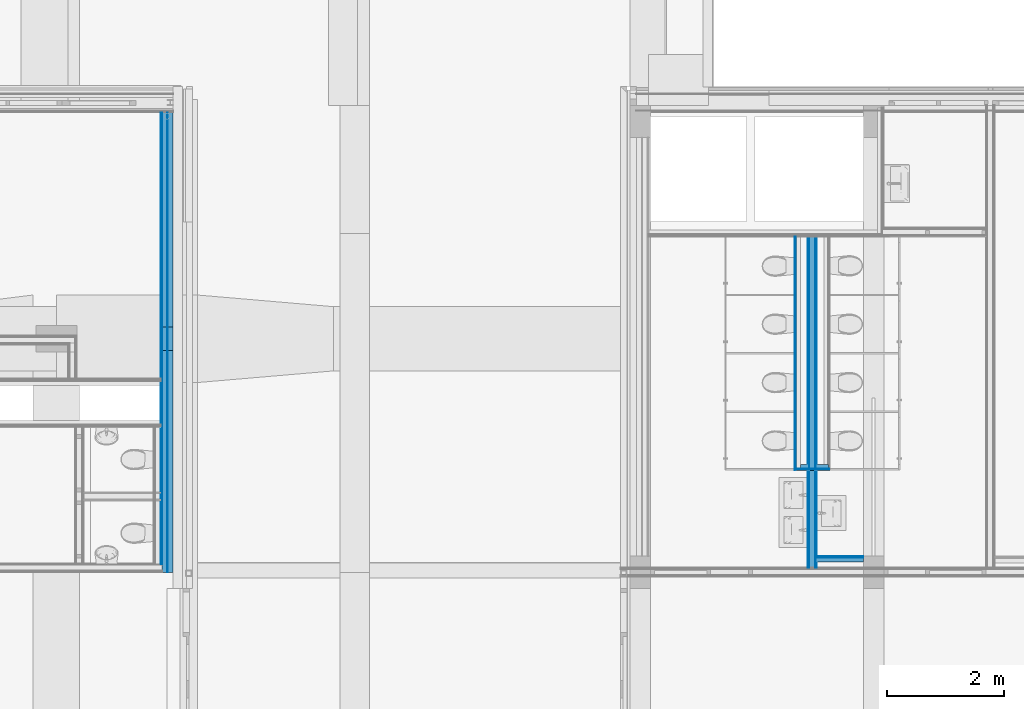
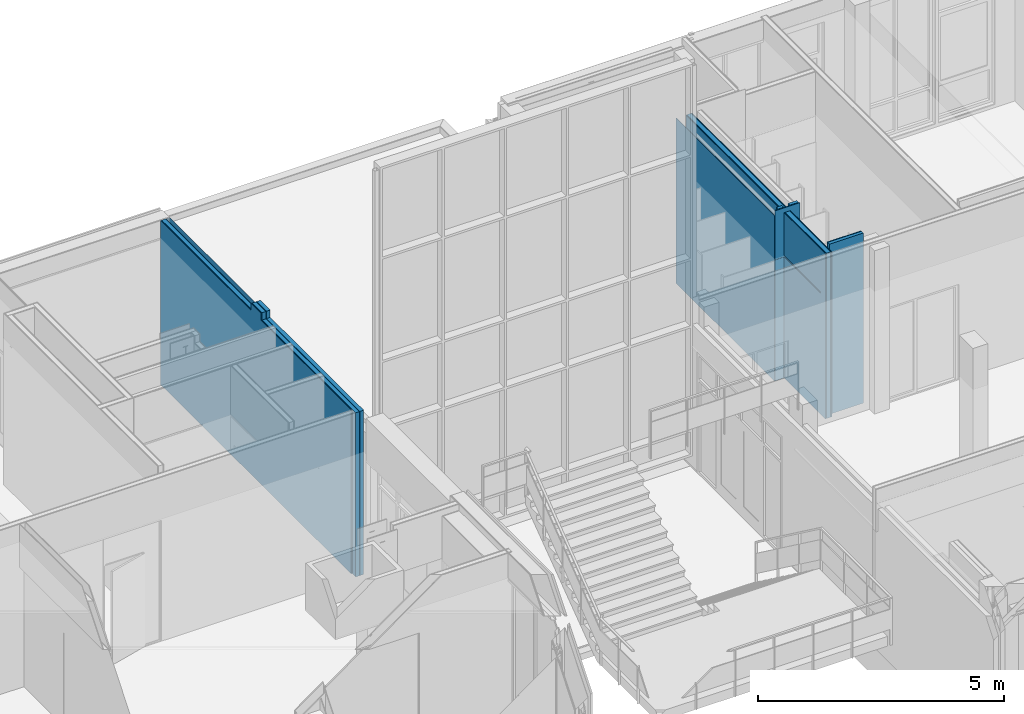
# One storey, part 50 of 94: 17 building element parts, 5 elements without a shape of their own.
"""IFC2X3 building model written with IfcOpenShell, lengths in millimetres."""

from ifc_helpers import new_model, entity, si_unit, converted_unit, derived_unit, money_unit, direction, frame, origin_with_axes, place, context, subcontext, project, spatial, faceted_brep, material, type_object, element, aggregate, save


model = new_model("IFC2X3")

# Units and contexts
model_context = context("Model", 3, precision=0.01, world=origin_with_axes(), true_north=direction((0.0, 1.0)))
body_context = subcontext(model_context, "Body", "Model", "MODEL_VIEW")
ifc_project = project(units=[si_unit("LENGTHUNIT", "METRE", prefix="MILLI"), si_unit("AREAUNIT", "SQUARE_METRE"), si_unit("VOLUMEUNIT", "CUBIC_METRE"), converted_unit("PLANEANGLEUNIT", "DEGREE", entity("IfcPlaneAngleMeasure", 0.0174532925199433), si_unit("PLANEANGLEUNIT", "RADIAN"), dimensions=[0, 0, 0, 0, 0, 0, 0]), money_unit("EUR"), converted_unit("TIMEUNIT", "Year", entity("IfcTimeMeasure", 31557600.0), si_unit("TIMEUNIT", "SECOND"), dimensions=[0, 0, 1, 0, 0, 0, 0]), si_unit("MASSUNIT", "GRAM", prefix="KILO"), si_unit("THERMODYNAMICTEMPERATUREUNIT", "DEGREE_CELSIUS"), si_unit("LUMINOUSINTENSITYUNIT", "LUMEN"), si_unit("ENERGYUNIT", "JOULE", prefix="MEGA"), derived_unit("THERMALCONDUCTANCEUNIT", [(si_unit("POWERUNIT", "WATT"), 1), (si_unit("LENGTHUNIT", "METRE"), -1), (si_unit("THERMODYNAMICTEMPERATUREUNIT", "KELVIN"), -1)]), derived_unit("SPECIFICHEATCAPACITYUNIT", [(si_unit("ENERGYUNIT", "JOULE"), 1), (si_unit("MASSUNIT", "GRAM", prefix="KILO"), -1), (si_unit("THERMODYNAMICTEMPERATUREUNIT", "KELVIN"), -1)]), derived_unit("MASSDENSITYUNIT", [(si_unit("MASSUNIT", "GRAM", prefix="KILO"), 1), (si_unit("VOLUMEUNIT", "CUBIC_METRE"), -1)])], contexts=[model_context])

# Site, building, storey
site_placement = place(None, origin_with_axes())
site = spatial("IfcSite", under=ifc_project, at=site_placement, Name="<site naam>", CompositionType="ELEMENT")
building_placement = place(site_placement, origin_with_axes())
building = spatial("IfcBuilding", under=site, at=building_placement, Name="<Naam gebouw>", CompositionType="ELEMENT")
storey_placement = place(building_placement, frame((0.0, 0.0, 4250.0), z_axis=(0.0, 0.0, 1.0), x_axis=(1.0, 0.0, 0.0)))
storey = spatial("IfcBuildingStorey", under=building, at=storey_placement, Name="01 1e verdieping", CompositionType="ELEMENT", Elevation=4250.0)

# Wall, building element parts
wall_type_1 = type_object("IfcWallType", Name="MS-01 GF 150 ECO DGS/2.100.2.A 150", PredefinedType="NOTDEFINED")
wall_1_placement = place(storey_placement, frame((14950.00000000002, 17750.0, 0.0), z_axis=(0.0, 0.0, 1.0), x_axis=(0.0, -1.0, 0.0)))
wall_1 = element("IfcWall", 1, at=wall_1_placement, inside=storey, type_object=wall_type_1, Name="22_Binnenwand_MS-01")
ifc_material_1 = material(Name="gipsplaat")
building_element_part_1_placement = place(wall_1_placement, origin_with_axes())
building_element_part_1 = element("IfcBuildingElementPart", 2, at=building_element_part_1_placement, material=ifc_material_1, Name="gipsplaat", context=body_context, shape_type="Brep", body=[
    faceted_brep([(0.0, 50.00000000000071, 4100.0), (0.0, 62.5, 4100.0), (0.0, 62.5, 0.0), (0.0, 50.00000000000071, 0.0), (3975.101338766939, 62.5, 4100.0), (3975.106603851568, 49.99999999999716, 4100.0), (3975.101338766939, 62.5, 0.0), (3975.106603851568, 49.99999999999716, 0.0)], [[[0, 1, 2, 3]], [[4, 1, 0, 5]], [[1, 4, 6, 2]], [[2, 6, 7, 3]], [[5, 0, 3, 7]], [[4, 5, 7, 6]]]),
    faceted_brep([(4000.106606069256, 49.99999999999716, 4100.0), (4000.101340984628, 62.5, 4100.0), (4000.101340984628, 62.5, 3040.0), (4000.106606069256, 49.99999999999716, 3040.0), (5674.999999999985, 62.5, 4100.0), (5674.999999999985, 49.99999999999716, 4100.0), (5674.999999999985, 62.5, 0.0), (4000.101340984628, 62.5, 0.0), (4000.101340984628, 62.5, 3000.0), (5474.999980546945, 62.5, 3000.0), (5474.999980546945, 62.5, 3040.0), (5474.999980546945, 49.99999999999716, 3040.0), (5474.999980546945, 49.99999999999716, 3000.0), (4000.106606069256, 49.99999999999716, 3000.0), (4000.106606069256, 49.99999999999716, 0.0), (5674.999999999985, 49.99999999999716, 0.0)], [[[0, 1, 2, 3]], [[4, 1, 0, 5]], [[1, 4, 6, 7, 8, 9, 10, 2]], [[11, 3, 2, 10]], [[5, 0, 3, 11, 12, 13, 14, 15]], [[4, 5, 15, 6]], [[7, 6, 15, 14]], [[14, 13, 8, 7]], [[12, 9, 8, 13]], [[11, 10, 9, 12]]]),
])
building_element_part_2_placement = place(wall_1_placement, origin_with_axes())
building_element_part_2 = element("IfcBuildingElementPart", 3, at=building_element_part_2_placement, material=ifc_material_1, Name="gipsplaat", context=body_context, shape_type="Brep", body=[
    faceted_brep([(0.0, 62.5, 4100.0), (0.0, 75.00000000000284, 4100.0), (0.0, 74.99999999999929, 0.0), (0.0, 62.5, 0.0), (3975.096073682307, 74.99999999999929, 4100.0), (3975.101338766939, 62.5, 4100.0), (3975.096073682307, 74.99999999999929, 0.0), (3975.101338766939, 62.5, 0.0)], [[[0, 1, 2, 3]], [[4, 1, 0, 5]], [[1, 4, 6, 2]], [[2, 6, 7, 3]], [[5, 0, 3, 7]], [[4, 5, 7, 6]]]),
    faceted_brep([(4000.101340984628, 62.5, 4100.0), (4000.096075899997, 74.99999999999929, 4100.0), (4000.096075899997, 74.99999999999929, 3040.0), (4000.101340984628, 62.5, 3040.0), (5674.999999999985, 74.99999999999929, 4100.0), (5674.999999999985, 62.5, 4100.0), (5674.999999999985, 74.99999999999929, 0.0), (4000.096075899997, 74.99999999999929, 0.0), (4000.096075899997, 74.99999999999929, 3000.0), (5474.999980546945, 74.99999999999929, 3000.0), (5474.999980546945, 74.99999999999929, 3040.0), (5474.999980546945, 62.5, 3040.0), (5474.999980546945, 62.5, 3000.0), (4000.101340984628, 62.5, 3000.0), (4000.101340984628, 62.5, 0.0), (5674.999999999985, 62.5, 0.0)], [[[0, 1, 2, 3]], [[4, 1, 0, 5]], [[1, 4, 6, 7, 8, 9, 10, 2]], [[11, 3, 2, 10]], [[5, 0, 3, 11, 12, 13, 14, 15]], [[4, 5, 15, 6]], [[7, 6, 15, 14]], [[14, 13, 8, 7]], [[12, 9, 8, 13]], [[11, 10, 9, 12]]]),
])
ifc_material_2 = material(Name="isolatie_steenwol LSW")
building_element_part_3_placement = place(wall_1_placement, origin_with_axes())
building_element_part_3 = element("IfcBuildingElementPart", 4, at=building_element_part_3_placement, material=ifc_material_2, Name="isolatie_steenwol LSW", context=body_context, shape_type="Brep", body=[
    faceted_brep([(0.0, -49.99999999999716, 4100.0), (0.0, 50.00000000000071, 4100.0), (0.0, 50.00000000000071, 0.0), (0.0, -50.00000000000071, 0.0), (3975.106603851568, 49.99999999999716, 4100.0), (3975.148724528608, -50.00000000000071, 4100.0), (3975.106603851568, 49.99999999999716, 0.0), (3975.148724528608, -50.00000000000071, 0.0)], [[[0, 1, 2, 3]], [[4, 1, 0, 5]], [[1, 4, 6, 2]], [[2, 6, 7, 3]], [[5, 0, 3, 7]], [[4, 5, 7, 6]]]),
    faceted_brep([(4000.148726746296, -50.00000000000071, 4100.0), (4000.106606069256, 49.99999999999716, 4100.0), (4000.106606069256, 49.99999999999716, 3040.0), (4000.148726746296, -50.00000000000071, 3040.0), (5674.999999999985, 49.99999999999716, 4100.0), (5674.999999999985, -50.00000000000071, 4100.0), (5674.999999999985, 49.99999999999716, 0.0), (4000.106606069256, 49.99999999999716, 0.0), (4000.106606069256, 49.99999999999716, 3000.0), (5474.999980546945, 49.99999999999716, 3000.0), (5474.999980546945, 49.99999999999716, 3040.0), (5474.999980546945, -50.00000000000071, 3040.0), (5474.999980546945, -50.00000000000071, 3000.0), (4000.148726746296, -50.00000000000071, 3000.0), (4000.148726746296, -50.00000000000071, 0.0), (5674.999999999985, -50.00000000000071, 0.0)], [[[0, 1, 2, 3]], [[4, 1, 0, 5]], [[1, 4, 6, 7, 8, 9, 10, 2]], [[11, 3, 2, 10]], [[5, 0, 3, 11, 12, 13, 14, 15]], [[4, 5, 15, 6]], [[7, 6, 15, 14]], [[14, 13, 8, 7]], [[12, 9, 8, 13]], [[11, 10, 9, 12]]]),
])
building_element_part_4_placement = place(wall_1_placement, origin_with_axes())
building_element_part_4 = element("IfcBuildingElementPart", 5, at=building_element_part_4_placement, material=ifc_material_1, Name="gipsplaat", context=body_context, shape_type="Brep", body=[
    faceted_brep([(0.0, -62.5, 4100.0), (0.0, -49.99999999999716, 4100.0), (0.0, -50.00000000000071, 0.0), (0.0, -62.5, 0.0), (3975.148724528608, -50.00000000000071, 4100.0), (3975.153989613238, -62.5, 4100.0), (3975.148724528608, -50.00000000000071, 0.0), (3975.153989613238, -62.5, 0.0)], [[[0, 1, 2, 3]], [[4, 1, 0, 5]], [[1, 4, 6, 2]], [[2, 6, 7, 3]], [[5, 0, 3, 7]], [[4, 5, 7, 6]]]),
    faceted_brep([(4000.153991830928, -62.5, 4100.0), (4000.148726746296, -50.00000000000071, 4100.0), (4000.148726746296, -50.00000000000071, 3040.0), (4000.153991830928, -62.5, 3040.0), (5674.999999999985, -50.00000000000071, 4100.0), (5674.999999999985, -62.5, 4100.0), (5674.999999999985, -50.00000000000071, 0.0), (4000.148726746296, -50.00000000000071, 0.0), (4000.148726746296, -50.00000000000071, 3000.0), (5474.999980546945, -50.00000000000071, 3000.0), (5474.999980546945, -50.00000000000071, 3040.0), (5474.999980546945, -62.5, 3040.0), (5474.999980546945, -62.5, 3000.0), (4000.153991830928, -62.5, 3000.0), (4000.153991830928, -62.5, 0.0), (5674.999999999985, -62.5, 0.0)], [[[0, 1, 2, 3]], [[4, 1, 0, 5]], [[1, 4, 6, 7, 8, 9, 10, 2]], [[11, 3, 2, 10]], [[5, 0, 3, 11, 12, 13, 14, 15]], [[4, 5, 15, 6]], [[7, 6, 15, 14]], [[14, 13, 8, 7]], [[12, 9, 8, 13]], [[11, 10, 9, 12]]]),
])
building_element_part_5_placement = place(wall_1_placement, origin_with_axes())
building_element_part_5 = element("IfcBuildingElementPart", 6, at=building_element_part_5_placement, material=ifc_material_1, Name="gipsplaat", context=body_context, shape_type="Brep", body=[
    faceted_brep([(0.0, -74.99999999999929, 4100.0), (0.0, -62.5, 4100.0), (0.0, -62.5, 0.0), (0.0, -74.99999999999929, 0.0), (3975.153989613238, -62.5, 4100.0), (3975.159254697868, -75.00000000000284, 4100.0), (3975.153989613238, -62.5, 0.0), (3975.159254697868, -75.00000000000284, 0.0)], [[[0, 1, 2, 3]], [[4, 1, 0, 5]], [[1, 4, 6, 2]], [[2, 6, 7, 3]], [[5, 0, 3, 7]], [[4, 5, 7, 6]]]),
    faceted_brep([(4000.159256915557, -75.00000000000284, 4100.0), (4000.153991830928, -62.5, 4100.0), (4000.153991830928, -62.5, 3040.0), (4000.159256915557, -75.00000000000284, 3040.0), (5674.999999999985, -62.5, 4100.0), (5674.999999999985, -75.00000000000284, 4100.0), (5674.999999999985, -62.5, 0.0), (4000.153991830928, -62.5, 0.0), (4000.153991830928, -62.5, 3000.0), (5474.999980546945, -62.5, 3000.0), (5474.999980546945, -62.5, 3040.0), (5474.999980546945, -75.00002204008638, 3040.0), (5474.999980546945, -75.00002204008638, 3000.0), (4000.159256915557, -75.00000000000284, 3000.0), (4000.159256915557, -75.00000000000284, 0.0), (5674.999999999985, -75.00000000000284, 0.0)], [[[0, 1, 2, 3]], [[4, 1, 0, 5]], [[1, 4, 6, 7, 8, 9, 10, 2]], [[11, 3, 2, 10]], [[5, 0, 3, 11, 12, 13, 14, 15]], [[4, 5, 15, 6]], [[7, 6, 15, 14]], [[14, 13, 8, 7]], [[12, 9, 8, 13]], [[11, 10, 9, 12]]]),
])
aggregate(wall_1, [building_element_part_1, building_element_part_2, building_element_part_3, building_element_part_4, building_element_part_5])

# Wall, building element part
wall_type_2 = type_object("IfcWallType", Name="MS-03 GF 100 HTT DGS V/100.2 100", PredefinedType="NOTDEFINED")
wall_2_placement = place(storey_placement, frame((14750.00000000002, 17750.0, 0.0), z_axis=(0.0, 0.0, 1.0), x_axis=(0.0, -1.0, 0.0)))
wall_2 = element("IfcWall", 7, at=wall_2_placement, inside=storey, type_object=wall_type_2, Name="22_Binnenwand_MS-03")
building_element_part_6_placement = place(wall_2_placement, origin_with_axes())
building_element_part_6 = element("IfcBuildingElementPart", 8, at=building_element_part_6_placement, material=ifc_material_1, Name="gipsplaat", context=body_context, shape_type="Brep", body=[
    faceted_brep([(0.0, -99.99999999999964, 4100.0), (0.0, -87.50000000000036, 4100.0), (0.0, -87.50000000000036, 0.0), (0.0, -99.99999999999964, 0.0), (4000.24876335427, -87.50000000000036, 4100.0), (4000.254028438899, -99.99999999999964, 4100.0), (4000.24876335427, -87.50000000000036, 3040.0), (3994.602597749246, -87.50000000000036, 3040.0), (3994.602597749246, -87.50000000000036, 3000.0), (4000.24876335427, -87.50000000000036, 3000.0), (4000.24876335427, -87.50000000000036, 22.99999999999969), (4000.143490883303, -87.50000000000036, 22.99999999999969), (4000.143490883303, -87.50000000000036, 19.99999999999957), (4000.24876335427, -87.50000000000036, 19.99999999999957), (4000.24876335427, -87.50000000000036, 0.0), (4000.254028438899, -99.99999999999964, 0.0), (4000.254028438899, -99.99999999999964, 19.99999999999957), (4000.143490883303, -100.0000404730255, 19.99999999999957), (4000.143490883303, -100.0000404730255, 22.99999999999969), (4000.254028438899, -99.99999999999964, 22.99999999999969), (4000.254028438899, -99.99999999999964, 3000.0), (3994.602597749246, -100.0000546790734, 3000.0), (3994.602597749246, -100.0000546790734, 3040.0), (4000.254028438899, -99.99999999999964, 3040.0)], [[[0, 1, 2, 3]], [[4, 1, 0, 5]], [[1, 4, 6, 7, 8, 9, 10, 11, 12, 13, 14, 2]], [[2, 14, 15, 3]], [[5, 0, 3, 15, 16, 17, 18, 19, 20, 21, 22, 23]], [[4, 5, 23, 6]], [[22, 7, 6, 23]], [[21, 8, 7, 22]], [[20, 9, 8, 21]], [[20, 19, 10, 9]], [[18, 11, 10, 19]], [[17, 12, 11, 18]], [[16, 13, 12, 17]], [[14, 13, 16, 15]]]),
])
aggregate(wall_2, [building_element_part_6])

# Wall, building element parts
wall_3_placement = place(storey_placement, frame((14750.00000000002, 13749.78809223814, 0.0), z_axis=(0.0, 0.0, 1.0), x_axis=(0.9999999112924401, 0.0004212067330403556, 0.0)))
wall_3 = element("IfcWall", 9, at=wall_3_placement, inside=storey, type_object=wall_type_2, Name="22_Binnenwand_MS-03")
building_element_part_7_placement = place(wall_3_placement, origin_with_axes())
building_element_part_7 = element("IfcBuildingElementPart", 10, at=building_element_part_7_placement, material=ifc_material_2, Name="isolatie_steenwol LSW", context=body_context, shape_type="Brep", body=[
    faceted_brep([(275.0421450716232, 100.0000000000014, 4220.000000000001), (475.0421628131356, 100.0000000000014, 4220.000000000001), (475.0421628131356, 100.0000000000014, 0.0), (275.0421450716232, 100.0000000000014, 0.0), (475.0105723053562, 25.00000000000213, 4220.000000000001), (275.0105545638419, 25.00000000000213, 4220.000000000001), (475.0105723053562, 25.00000000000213, 0.0), (275.0105545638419, 25.00000000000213, 0.0)], [[[0, 1, 2, 3]], [[4, 1, 0, 5]], [[1, 4, 6, 2]], [[2, 6, 7, 3]], [[5, 0, 3, 7]], [[4, 5, 7, 6]]]),
    faceted_brep([(0.04212067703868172, 99.99999999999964, 4220.000000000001), (125.042131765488, 100.0000000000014, 4220.000000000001), (125.042131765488, 100.0000000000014, 0.0), (0.04212067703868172, 99.99999999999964, 0.0), (125.0105412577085, 25.00000000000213, 4220.000000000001), (0.01053016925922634, 25.00000000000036, 4220.000000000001), (125.0105412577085, 25.00000000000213, 0.0), (0.01053016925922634, 25.00000000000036, 0.0)], [[[0, 1, 2, 3]], [[4, 1, 0, 5]], [[1, 4, 6, 2]], [[2, 6, 7, 3]], [[5, 0, 3, 7]], [[4, 5, 7, 6]]]),
])
building_element_part_8_placement = place(wall_3_placement, origin_with_axes())
building_element_part_8 = element("IfcBuildingElementPart", 11, at=building_element_part_8_placement, material=ifc_material_1, Name="gipsplaat", context=body_context, shape_type="Brep", body=[
    faceted_brep([(-74.98947648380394, 25.00000000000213, 4220.000000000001), (487.5105734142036, 25.00000000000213, 4220.000000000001), (487.5105734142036, 25.00000000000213, 0.0), (-74.98947648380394, 25.00000000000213, 0.0), (487.5053083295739, 12.50000000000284, 4220.000000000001), (-74.99474156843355, 12.50000000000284, 4220.000000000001), (487.5053083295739, 12.50000000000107, 0.0), (-74.99474156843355, 12.50000000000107, 0.0)], [[[0, 1, 2, 3]], [[4, 1, 0, 5]], [[1, 4, 6, 2]], [[2, 6, 7, 3]], [[5, 0, 3, 7]], [[4, 5, 7, 6]]]),
])
building_element_part_9_placement = place(wall_3_placement, origin_with_axes())
building_element_part_9 = element("IfcBuildingElementPart", 12, at=building_element_part_9_placement, material=ifc_material_1, Name="gipsplaat", context=body_context, shape_type="Brep", body=[
    faceted_brep([(-87.49474267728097, 12.50000000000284, 4220.000000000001), (500.0053094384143, 12.50000000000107, 4220.000000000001), (500.0053094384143, 12.49999999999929, 0.0), (-87.49474267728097, 12.50000000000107, 0.0), (500.0000443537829, 0.0, 4220.000000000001), (-87.50000776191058, 0.0, 4220.000000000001), (500.0000443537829, 0.0, 3040.0), (500.0022359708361, 5.398706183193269, 3040.0), (500.0022359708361, 5.398706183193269, 3000.0), (500.0000443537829, 0.0, 3000.0), (500.0000443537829, 0.0, 0.0), (-87.50000776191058, 0.0, 0.0), (-87.50000776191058, 0.0, 19.99999999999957), (-87.49996342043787, 0.1052724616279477, 19.99999999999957), (-87.49996342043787, 0.1052724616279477, 22.99999999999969), (-87.50000776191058, 0.0, 22.99999999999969), (-87.50000776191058, 0.0, 3000.0), (-87.49762955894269, 5.646165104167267, 3000.0), (-87.49762955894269, 5.646165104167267, 3040.0), (-87.50000776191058, 0.0, 3040.0), (125.0000110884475, 0.0, 19.99999999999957), (125.0000110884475, 0.0, 22.99999999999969), (125.0000177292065, 0.01576603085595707, 19.99999999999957), (125.0000177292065, 0.01576603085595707, 22.99999999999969)], [[[0, 1, 2, 3]], [[4, 1, 0, 5]], [[1, 4, 6, 7, 8, 9, 10, 2]], [[2, 10, 11, 3]], [[5, 0, 3, 11, 12, 13, 14, 15, 16, 17, 18, 19]], [[4, 5, 19, 6]], [[7, 6, 19, 18]], [[8, 7, 18, 17]], [[9, 8, 17, 16]], [[20, 12, 11, 10, 9, 16, 15, 21]], [[12, 20, 22, 13]], [[14, 13, 22, 23]], [[21, 15, 14, 23]], [[20, 21, 23, 22]]]),
])
aggregate(wall_3, [building_element_part_7, building_element_part_8, building_element_part_9])

wall_type_3 = type_object("IfcWallType", Name="therm. voorzetwand 215mm 215", PredefinedType="NOTDEFINED")
wall_4_placement = place(storey_placement, frame((4000.04446815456, 19883.99999999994, 0.0), z_axis=(0.0, 0.0, 1.0), x_axis=(0.0, -1.0, 0.0)))
wall_4 = element("IfcWall", 13, at=wall_4_placement, inside=storey, type_object=wall_type_3, Name="22_Binnenwand_therm.")
ifc_material_3 = material(Name="isolatie_steenwol")
building_element_part_10_placement = place(wall_4_placement, origin_with_axes())
building_element_part_10 = element("IfcBuildingElementPart", 14, at=building_element_part_10_placement, material=ifc_material_3, Name="isolatie_steenwol", context=body_context, shape_type="Brep", body=[
    faceted_brep([(0.0, -89.99999999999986, 4070.000000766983), (0.0, 0.0, 4070.000000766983), (0.0, 0.0, 0.0), (0.0, -89.99999999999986, 0.0), (7883.99999999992, 0.0, 4070.000000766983), (3683.999999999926, -89.99999999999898, 4070.000000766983), (3683.999999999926, -0.04446815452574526, 4070.000000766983), (4083.999999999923, -0.04446815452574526, 4070.000000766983), (4083.999999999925, -89.99999999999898, 4070.000000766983), (7883.999999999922, -89.99999999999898, 4070.000000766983), (7883.99999999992, 0.0, 0.0), (7883.999999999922, -89.99999999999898, 0.0), (4083.999999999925, -89.99999999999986, 4250.0), (3683.999999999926, -89.99999999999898, 4250.0), (3683.999999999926, -0.04446815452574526, 4250.0), (4083.999999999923, -0.04446815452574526, 4250.0)], [[[0, 1, 2, 3]], [[4, 1, 0, 5, 6, 7, 8, 9]], [[1, 4, 10, 2]], [[10, 11, 3, 2]], [[5, 0, 3, 11, 9, 8, 12, 13]], [[13, 14, 6, 5]], [[14, 15, 7, 6]], [[15, 12, 8, 7]], [[4, 9, 11, 10]], [[14, 13, 12, 15]]]),
])
ifc_material_4 = material(Name="metal_stud")
building_element_part_11_placement = place(wall_4_placement, origin_with_axes())
building_element_part_11 = element("IfcBuildingElementPart", 15, at=building_element_part_11_placement, material=ifc_material_4, Name="metal_stud", context=body_context, shape_type="Brep", body=[
    faceted_brep([(3683.999999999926, -89.99999999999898, 4250.0), (3683.999999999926, -99.99999999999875, 4250.0), (4083.999999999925, -99.99999999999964, 4250.0), (4083.999999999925, -89.99999999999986, 4250.0), (3683.999999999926, -89.99999999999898, 4070.000000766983), (3683.999999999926, -99.99999999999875, 4070.000000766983), (0.0, -99.99999999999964, 4070.000000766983), (0.0, -100.0000000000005, 0.0), (7883.999999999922, -99.99999999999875, 0.0), (7883.999999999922, -99.99999999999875, 4070.000000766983), (4083.999999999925, -99.99999999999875, 4070.000000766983), (4083.999999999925, -89.99999999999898, 4070.000000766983), (7883.999999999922, -89.99999999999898, 4070.000000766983), (7883.999999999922, -89.99999999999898, 0.0), (0.0, -89.99999999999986, 0.0), (0.0, -89.99999999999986, 4070.000000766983)], [[[0, 1, 2, 3]], [[1, 0, 4, 5]], [[5, 6, 7, 8, 9, 10, 2, 1]], [[11, 3, 2, 10]], [[4, 0, 3, 11, 12, 13, 14, 15]], [[4, 15, 6, 5]], [[6, 15, 14, 7]], [[13, 8, 7, 14]], [[12, 9, 8, 13]], [[12, 11, 10, 9]]]),
])
building_element_part_12_placement = place(wall_4_placement, origin_with_axes())
building_element_part_12 = element("IfcBuildingElementPart", 16, at=building_element_part_12_placement, material=ifc_material_1, Name="gipsplaat", context=body_context, shape_type="Brep", body=[
    faceted_brep([(3683.999999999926, -189.9999999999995, 4250.0), (3683.999999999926, -202.4999999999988, 4250.0), (4083.999999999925, -202.4999999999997, 4250.0), (4083.999999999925, -189.9999999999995, 4250.0), (3683.999999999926, -189.9999999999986, 4070.000000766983), (3683.999999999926, -202.4999999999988, 4070.000000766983), (0.0, -202.4999999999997, 4070.000000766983), (0.0, -202.4999999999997, 0.0), (7746.499999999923, -202.4999999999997, 0.0), (7746.499999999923, -202.4999999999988, 4070.000000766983), (4083.999999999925, -202.4999999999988, 4070.000000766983), (4083.999999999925, -189.9999999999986, 4070.000000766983), (7746.499999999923, -189.9999999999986, 4070.000000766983), (7746.499999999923, -189.9999999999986, 0.0), (0.0, -190.0000000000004, 0.0), (0.0, -190.0000000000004, 4070.000000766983)], [[[0, 1, 2, 3]], [[1, 0, 4, 5]], [[5, 6, 7, 8, 9, 10, 2, 1]], [[11, 3, 2, 10]], [[4, 0, 3, 11, 12, 13, 14, 15]], [[4, 15, 6, 5]], [[6, 15, 14, 7]], [[13, 8, 7, 14]], [[12, 9, 8, 13]], [[12, 11, 10, 9]]]),
])
building_element_part_13_placement = place(wall_4_placement, origin_with_axes())
building_element_part_13 = element("IfcBuildingElementPart", 17, at=building_element_part_13_placement, material=ifc_material_3, Name="isolatie_steenwol", context=body_context, shape_type="Brep", body=[
    faceted_brep([(3683.999999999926, -99.99999999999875, 4250.0), (3683.999999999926, -189.9999999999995, 4250.0), (4083.999999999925, -189.9999999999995, 4250.0), (4083.999999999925, -99.99999999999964, 4250.0), (3683.999999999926, -99.99999999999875, 4070.000000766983), (3683.999999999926, -189.9999999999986, 4070.000000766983), (0.0, -190.0000000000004, 4070.000000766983), (0.0, -190.0000000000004, 0.0), (7883.999999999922, -189.9999999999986, 0.0), (7883.999999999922, -189.9999999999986, 4070.000000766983), (4083.999999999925, -189.9999999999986, 4070.000000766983), (4083.999999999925, -99.99999999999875, 4070.000000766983), (7883.999999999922, -99.99999999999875, 4070.000000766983), (7883.999999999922, -99.99999999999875, 0.0), (0.0, -100.0000000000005, 0.0), (0.0, -99.99999999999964, 4070.000000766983)], [[[0, 1, 2, 3]], [[1, 0, 4, 5]], [[5, 6, 7, 8, 9, 10, 2, 1]], [[11, 3, 2, 10]], [[4, 0, 3, 11, 12, 13, 14, 15]], [[4, 15, 6, 5]], [[6, 15, 14, 7]], [[13, 8, 7, 14]], [[12, 9, 8, 13]], [[12, 11, 10, 9]]]),
])
building_element_part_14_placement = place(wall_4_placement, origin_with_axes())
building_element_part_14 = element("IfcBuildingElementPart", 18, at=building_element_part_14_placement, material=ifc_material_1, Name="gipsplaat", context=body_context, shape_type="Brep", body=[
    faceted_brep([(3683.999999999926, -202.4999999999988, 4250.0), (3683.999999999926, -214.999999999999, 4250.0), (4083.999999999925, -214.9999999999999, 4250.0), (4083.999999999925, -202.4999999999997, 4250.0), (3683.999999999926, -202.4999999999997, 4070.000000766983), (3683.999999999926, -214.999999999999, 4070.000000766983), (0.0, -214.9999999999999, 4070.000000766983), (0.0, -214.9999999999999, 0.0), (7733.999999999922, -214.999999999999, 0.0), (7733.999999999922, -214.999999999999, 4070.000000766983), (4083.999999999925, -214.999999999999, 4070.000000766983), (4083.999999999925, -202.4999999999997, 4070.000000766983), (7733.999999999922, -202.4999999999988, 4070.000000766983), (7733.999999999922, -202.4999999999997, 0.0), (0.0, -202.4999999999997, 0.0), (0.0, -202.4999999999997, 4070.000000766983)], [[[0, 1, 2, 3]], [[1, 0, 4, 5]], [[5, 6, 7, 8, 9, 10, 2, 1]], [[11, 3, 2, 10]], [[4, 0, 3, 11, 12, 13, 14, 15]], [[4, 15, 6, 5]], [[6, 15, 14, 7]], [[13, 8, 7, 14]], [[12, 9, 8, 13]], [[12, 11, 10, 9]]]),
])
aggregate(wall_4, [building_element_part_10, building_element_part_11, building_element_part_12, building_element_part_13, building_element_part_14])

wall_5_placement = place(storey_placement, frame((14950.00000000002, 12275.00000000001, 0.0), z_axis=(0.0, 0.0, 1.0), x_axis=(1.0, 0.0, 0.0)))
wall_5 = element("IfcWall", 19, at=wall_5_placement, inside=storey, type_object=wall_type_2, Name="22_Binnenwand_MS-03")
building_element_part_15_placement = place(wall_5_placement, origin_with_axes())
building_element_part_15 = element("IfcBuildingElementPart", 20, at=building_element_part_15_placement, material=ifc_material_1, Name="gipsplaat", context=body_context, shape_type="Brep", body=[
    faceted_brep([(74.99999999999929, 0.0, 4220.000000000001), (875.0, 0.0, 4220.000000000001), (875.0, 0.0, 0.0), (74.99999999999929, 0.0, 0.0), (875.0, -12.49999999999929, 4220.000000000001), (74.99999999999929, -12.49999999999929, 4220.000000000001), (875.0, -12.49999999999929, 0.0), (74.99999999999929, -12.49999999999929, 0.0)], [[[0, 1, 2, 3]], [[4, 1, 0, 5]], [[1, 4, 6, 2]], [[3, 2, 6, 7]], [[5, 0, 3, 7]], [[4, 5, 7, 6]]]),
])
building_element_part_16_placement = place(wall_5_placement, origin_with_axes())
building_element_part_16 = element("IfcBuildingElementPart", 21, at=building_element_part_16_placement, material=ifc_material_1, Name="gipsplaat", context=body_context, shape_type="Brep", body=[
    faceted_brep([(74.99999999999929, -12.49999999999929, 4220.000000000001), (875.0, -12.49999999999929, 4220.000000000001), (875.0, -12.49999999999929, 0.0), (74.99999999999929, -12.49999999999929, 0.0), (875.0, -25.00000000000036, 4220.000000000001), (74.99999999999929, -25.00000000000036, 4220.000000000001), (875.0, -25.00000000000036, 0.0), (74.99999999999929, -25.00000000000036, 0.0)], [[[0, 1, 2, 3]], [[4, 1, 0, 5]], [[1, 4, 6, 2]], [[3, 2, 6, 7]], [[5, 0, 3, 7]], [[4, 5, 7, 6]]]),
])
building_element_part_17_placement = place(wall_5_placement, origin_with_axes())
building_element_part_17 = element("IfcBuildingElementPart", 22, at=building_element_part_17_placement, material=ifc_material_2, Name="isolatie_steenwol LSW", context=body_context, shape_type="Brep", body=[
    faceted_brep([(74.99999999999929, -25.00000000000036, 4220.000000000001), (875.0, -25.00000000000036, 4220.000000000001), (875.0, -25.00000000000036, 0.0), (74.99999999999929, -25.00000000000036, 0.0), (875.0, -99.99999999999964, 4220.000000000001), (74.99999999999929, -99.99999999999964, 4220.000000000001), (875.0, -99.99999999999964, 0.0), (74.99999999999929, -99.99999999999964, 0.0)], [[[0, 1, 2, 3]], [[4, 1, 0, 5]], [[1, 4, 6, 2]], [[3, 2, 6, 7]], [[5, 0, 3, 7]], [[4, 5, 7, 6]]]),
])
aggregate(wall_5, [building_element_part_15, building_element_part_16, building_element_part_17])

save(model, "model.ifc")
